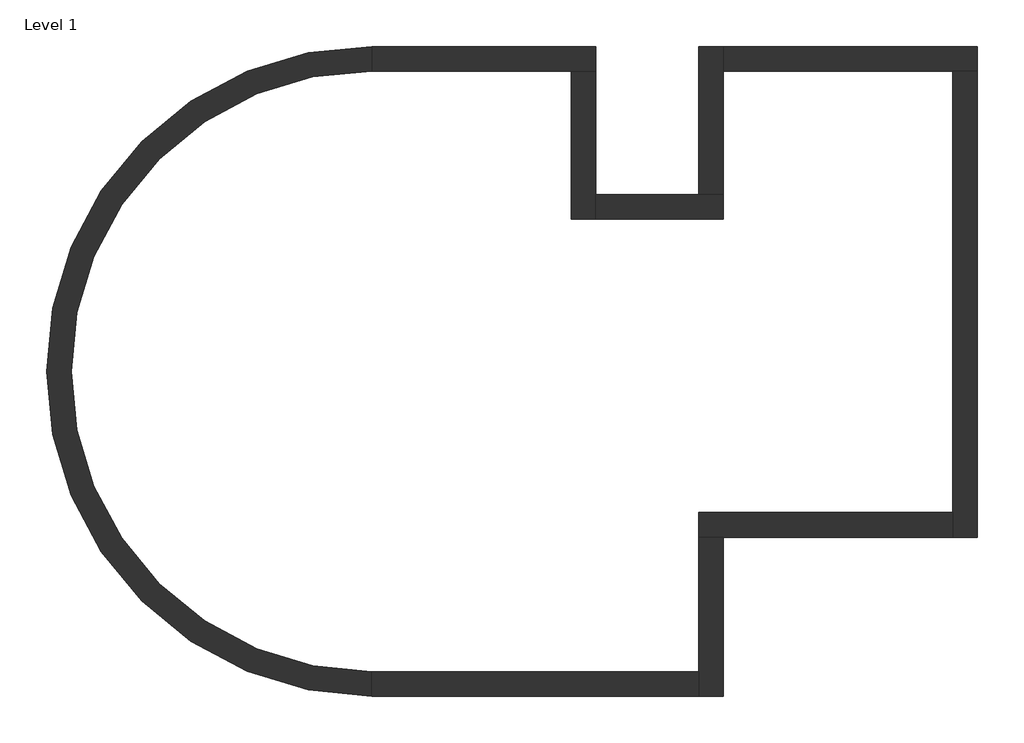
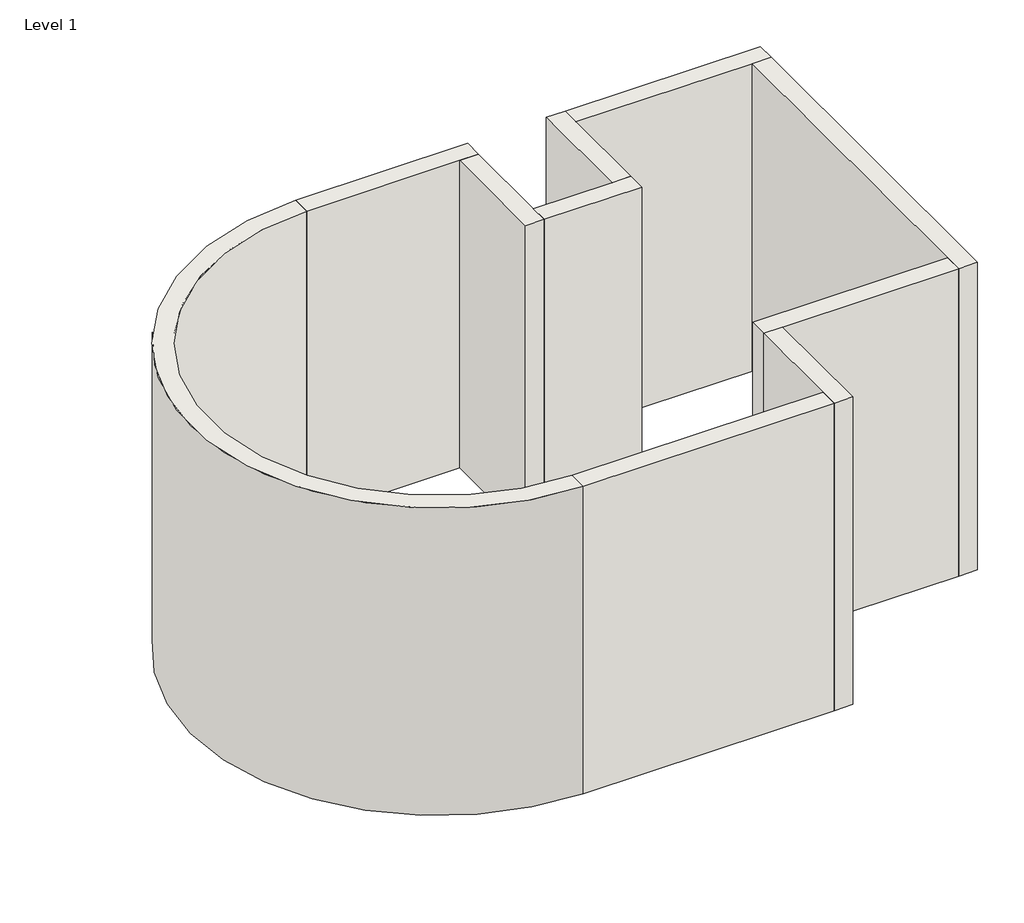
# One storey: 10 walls.
"""IFC4 building model written with IfcOpenShell, lengths in millimetres."""

import ifcopenshell
import ifcopenshell.guid

model = None  # the IFC model being written
_history = None  # IfcOwnerHistory: only IFC2X3 demands one
_inside = {}  # id of a spatial element -> (the spatial element, [elements in it])
_under = {}  # id of a project, library or spatial element -> (it, [spatial elements below it])
_declared = {}  # id of a project -> (the project, [libraries it declares])
_typed = {}  # id of a type object -> (the type object, [elements of that type])
_made_of = {}  # id of a material, layer set ... -> (it, [elements and type objects made of it])


def new_model(schema):
    """Start an empty IFC model of exactly this schema.

    Asked for "IFC4X3", IfcOpenShell would pick the latest addendum, in which some entities
    have other attributes; the version numbers below select the first issue.
    IFC2X3 requires an IfcOwnerHistory on every rooted entity: one is made here for all.
    """
    global model, _history
    if schema == "IFC4X3":
        model = ifcopenshell.file(schema_version=(4, 3, 0, 0))
    else:
        model = ifcopenshell.file(schema=schema)
    _inside.clear()
    _under.clear()
    _declared.clear()
    _typed.clear()
    _made_of.clear()
    _history = None
    if model.schema == "IFC2X3":
        org = make("IfcOrganization", Name="unknown")
        user = make(
            "IfcPersonAndOrganization",
            ThePerson=make("IfcPerson", FamilyName="unknown"),
            TheOrganization=org,
        )
        app = make(
            "IfcApplication",
            ApplicationDeveloper=org,
            Version="unknown",
            ApplicationFullName="unknown",
            ApplicationIdentifier="unknown",
        )
        _history = make(
            "IfcOwnerHistory",
            OwningUser=user,
            OwningApplication=app,
            ChangeAction="ADDED",
            CreationDate=0,
        )
    return model


def make(cls, **values):
    """One entity of the class cls with the attributes given. An attribute that is None is left unset."""
    return model.create_entity(
        cls, **{name: value for name, value in values.items() if value is not None}
    )


def rooted(cls, **values):
    """An entity with a GlobalId (a new one), such as an element, a storey or a relation."""
    return make(cls, GlobalId=ifcopenshell.guid.new(), OwnerHistory=_history, **values)


def si_unit(unit_type, name, prefix=None):
    """IfcSIUnit, for example si_unit("LENGTHUNIT", "METRE", prefix="MILLI")."""
    return make("IfcSIUnit", UnitType=unit_type, Prefix=prefix, Name=name)


def assignment(units):
    """IfcUnitAssignment: the units of a project."""
    return None if units is None else make("IfcUnitAssignment", Units=units)


def point(xyz):
    """IfcCartesianPoint."""
    return None if xyz is None else make("IfcCartesianPoint", Coordinates=xyz)


def direction(xyz):
    """IfcDirection."""
    return None if xyz is None else make("IfcDirection", DirectionRatios=xyz)


def frame(location, z_axis=None, x_axis=None):
    """IfcAxis2Placement3D, a coordinate frame: its origin and axes. An axis left out is left unset."""
    return make(
        "IfcAxis2Placement3D",
        Location=point(location),
        Axis=direction(z_axis),
        RefDirection=direction(x_axis),
    )


def frame_2d(location, x_axis=None):
    """IfcAxis2Placement2D, a coordinate frame in the plane: its origin and x axis."""
    return make(
        "IfcAxis2Placement2D", Location=point(location), RefDirection=direction(x_axis)
    )


def origin():
    """The frame at (0, 0, 0) with its axes left unset."""
    return frame((0.0, 0.0, 0.0))


def origin_with_axes():
    """The frame at (0, 0, 0) with the z axis (0, 0, 1) and the x axis (1, 0, 0) written out."""
    return frame((0.0, 0.0, 0.0), z_axis=(0.0, 0.0, 1.0), x_axis=(1.0, 0.0, 0.0))


def place(relative_to, where):
    """IfcLocalPlacement: puts the frame where relative to a parent placement (None: the world)."""
    return make(
        "IfcLocalPlacement", PlacementRelTo=relative_to, RelativePlacement=where
    )


def context(
    kind, dimensions, precision=None, world=None, true_north=None, identifier=None
):
    """IfcGeometricRepresentationContext, for example the 3D "Model" context."""
    return make(
        "IfcGeometricRepresentationContext",
        ContextIdentifier=identifier,
        ContextType=kind,
        CoordinateSpaceDimension=dimensions,
        Precision=precision,
        WorldCoordinateSystem=world,
        TrueNorth=true_north,
    )


def project(units=None, contexts=None):
    """IfcProject with its units and contexts."""
    return rooted(
        "IfcProject",
        Name="project",
        RepresentationContexts=contexts,
        UnitsInContext=assignment(units),
    )


def spatial(cls, under=None, at=None, **own):
    """A site, building, storey or space (cls), placed at a placement, below another one or the project."""
    s = rooted(cls, ObjectPlacement=at, **own)
    if under is not None:
        _under.setdefault(under.id(), (under, []))[1].append(s)
    return s


def polyline(points):
    """IfcPolyline through the points."""
    return make("IfcPolyline", Points=[point(p) for p in points])


def circle_curve(where, radius):
    """IfcCircle in the frame where."""
    return make("IfcCircle", Position=where, Radius=radius)


def trimmed(basis, trim1, trim2, sense, master):
    """IfcTrimmedCurve: the piece of a basis curve between two trims."""
    return make(
        "IfcTrimmedCurve",
        BasisCurve=basis,
        Trim1=trim1,
        Trim2=trim2,
        SenseAgreement=sense,
        MasterRepresentation=master,
    )


def segment(curve, same_sense, transition):
    """IfcCompositeCurveSegment."""
    return make(
        "IfcCompositeCurveSegment",
        Transition=transition,
        SameSense=same_sense,
        ParentCurve=curve,
    )


def composite_curve(segments, self_intersect=None):
    """IfcCompositeCurve: segments joined end to end."""
    return make("IfcCompositeCurve", Segments=segments, SelfIntersect=self_intersect)


def outline(outer, holes=None, kind="AREA"):
    """IfcArbitraryClosedProfileDef: a profile drawn as a closed curve; with holes, ...WithVoids."""
    if holes is None:
        return make("IfcArbitraryClosedProfileDef", ProfileType=kind, OuterCurve=outer)
    return make(
        "IfcArbitraryProfileDefWithVoids",
        ProfileType=kind,
        OuterCurve=outer,
        InnerCurves=holes,
    )


def extrude(swept, where, along, depth):
    """IfcExtrudedAreaSolid: the profile swept, set in the frame where, extruded along a direction by depth."""
    return make(
        "IfcExtrudedAreaSolid",
        SweptArea=swept,
        Position=where,
        ExtrudedDirection=direction(along),
        Depth=depth,
    )


def faces_of(points, faces, orient=None, outer=None):
    """IfcFace entities. A face is a list of loops; a loop is a list of indices into points, from 0.

    orient and outer hold one flag for each loop. By default every Orientation is true, the
    first loop of a face is its IfcFaceOuterBound and the others are IfcFaceBound.
    """
    made = []
    for i, loops in enumerate(faces):
        bounds = []
        for j, loop in enumerate(loops):
            is_outer = j == 0 if outer is None else outer[i][j]
            bounds.append(
                make(
                    "IfcFaceOuterBound" if is_outer else "IfcFaceBound",
                    Bound=make("IfcPolyLoop", Polygon=[points[k] for k in loop]),
                    Orientation=True if orient is None else orient[i][j],
                )
            )
        made.append(make("IfcFace", Bounds=bounds))
    return made


def faceted_brep(points, faces, orient=None, outer=None, voids=None):
    """IfcFacetedBrep: a solid bounded by flat faces; with voids (closed shells), ...WithVoids."""
    shared = [point(p) for p in points]
    hull = make("IfcClosedShell", CfsFaces=faces_of(shared, faces, orient, outer))
    if voids is None:
        return make("IfcFacetedBrep", Outer=hull)
    return make(
        "IfcFacetedBrepWithVoids",
        Outer=hull,
        Voids=[
            make(cls, CfsFaces=faces_of(shared, fs, o, b)) for cls, fs, o, b in voids
        ],
    )


def shape(context_of_items, identifier, shape_type, items):
    """IfcShapeRepresentation: the items that make up one representation, for example the "Body"."""
    return make(
        "IfcShapeRepresentation",
        ContextOfItems=context_of_items,
        RepresentationIdentifier=identifier,
        RepresentationType=shape_type,
        Items=items,
    )


def made_of(thing, what):
    """Note that an element or type object is made of a material, layer set ...; save() writes the relation."""
    if what is not None:
        _made_of.setdefault(what.id(), (what, []))[1].append(thing)
    return thing


def element(
    cls,
    number,
    at=None,
    inside=None,
    cuts=None,
    type_object=None,
    material=None,
    context=None,
    identifier="Body",
    shape_type=None,
    held_by="IfcProductDefinitionShape",
    body=None,
    shapes=None,
    **own,
):
    """One element of the class cls, such as IfcWall. Its Tag is "e" and its number.

    at: its placement. inside: the storey or other place that contains it. cuts: it is an
    opening in that element (IfcRelVoidsElement). A single representation is given by context,
    identifier, shape_type and body (its items); several are given by shapes. held_by: the class
    of the entity that holds the representations. save() writes the other relations.
    """
    e = rooted(cls, Tag="e%d" % number, ObjectPlacement=at, **own)
    if body is not None:
        shapes = [shape(context, identifier, shape_type, body)]
    if shapes is not None:
        e.Representation = make(held_by, Representations=shapes)
    if inside is not None:
        _inside.setdefault(inside.id(), (inside, []))[1].append(e)
    if cuts is not None:
        rooted(
            "IfcRelVoidsElement", RelatingBuildingElement=cuts, RelatedOpeningElement=e
        )
    if type_object is not None:
        _typed.setdefault(type_object.id(), (type_object, []))[1].append(e)
    return made_of(e, material)


def aggregate(whole, parts):
    """IfcRelAggregates: a whole, such as a stair, and the parts it consists of."""
    return rooted("IfcRelAggregates", RelatingObject=whole, RelatedObjects=parts)


def save(model, path):
    """Write the relations noted so far, then the file.

    IfcRelAggregates (storeys below a building ...), IfcRelContainedInSpatialStructure (elements
    in a storey), IfcRelDefinesByType, IfcRelAssociatesMaterial and IfcRelDeclares: one each for
    every whole, place, type object, material and project.
    """
    for whole, parts in _under.values():
        aggregate(whole, parts)
    for where, things in _inside.values():
        rooted(
            "IfcRelContainedInSpatialStructure",
            RelatedElements=things,
            RelatingStructure=where,
        )
    for kind, things in _typed.values():
        rooted("IfcRelDefinesByType", RelatedObjects=things, RelatingType=kind)
    for what, things in _made_of.values():
        rooted("IfcRelAssociatesMaterial", RelatedObjects=things, RelatingMaterial=what)
    for by, libraries in _declared.values():
        rooted("IfcRelDeclares", RelatingContext=by, RelatedDefinitions=libraries)
    model.write(path)


model = new_model("IFC4")

# Units and contexts
model_context = context("Model", 3, world=origin())
ifc_project = project(units=[si_unit("LENGTHUNIT", "METRE", prefix="MILLI")], contexts=[model_context])

# Site, building, storey
site = spatial("IfcSite", under=ifc_project)
building = spatial("IfcBuilding", under=site)
storey = spatial("IfcBuildingStorey", under=building, Name="Level 1", Elevation=0.0)

# Walls
placement = place(None, origin())
element("IfcWall", 1, ObjectType="Exterior - Brick on Mtl. Stud", at=placement, inside=storey, context=model_context, shape_type="Brep", body=[
    faceted_brep([(-4352.987982, 5164.0459322, 0.0), (-1481.200482, 5164.0459322, 0.0), (-1128.775482, 5164.0459322, 0.0), (-1128.775482, 5164.0459322, 6096.0), (-1481.200482, 5164.0459322, 6096.0), (-4352.987982, 5164.0459322, 6096.0), (-4352.987982, 5516.4709322, 0.0), (-4352.987982, 5516.4709322, 6096.0), (-1128.775482, 5516.4709322, 6096.0), (-1128.775482, 5516.4709322, 0.0)], [[[0, 1, 2, 3, 4, 5]], [[6, 7, 8, 9]], [[2, 1, 0, 6, 9]], [[5, 4, 3, 8, 7]], [[0, 5, 7, 6]], [[3, 2, 9, 8]]]),
])
element("IfcWall", 2, ObjectType="Exterior - Brick on Mtl. Stud", at=placement, inside=storey, context=model_context, shape_type="Brep", body=[
    faceted_brep([(-1481.200482, 5164.0459322, 0.0), (-1481.200482, 3030.4459322, 0.0), (-1481.200482, 3030.4459322, 6096.0), (-1481.200482, 5164.0459322, 6096.0), (-1128.775482, 5164.0459322, 0.0), (-1128.775482, 5164.0459322, 6096.0), (-1128.775482, 3382.8709322, 6096.0), (-1128.775482, 3030.4459322, 6096.0), (-1128.775482, 3030.4459322, 0.0), (-1128.775482, 3382.8709322, 0.0)], [[[0, 1, 2, 3]], [[4, 5, 6, 7, 8, 9]], [[1, 0, 4, 9, 8]], [[3, 2, 7, 6, 5]], [[0, 3, 5, 4]], [[2, 1, 8, 7]]]),
])
element("IfcWall", 3, ObjectType="Exterior - Brick on Mtl. Stud", at=placement, inside=storey, context=model_context, shape_type="Brep", body=[
    faceted_brep([(-1128.775482, 3030.4459322, 0.0), (700.024518, 3030.4459322, 0.0), (700.024518, 3030.4459322, 6096.0), (-1128.775482, 3030.4459322, 6096.0), (-1128.775482, 3382.8709322, 0.0), (-1128.775482, 3382.8709322, 6096.0), (347.599518, 3382.8709322, 6096.0), (700.024518, 3382.8709322, 6096.0), (700.024518, 3382.8709322, 0.0), (347.599518, 3382.8709322, 0.0)], [[[0, 1, 2, 3]], [[4, 5, 6, 7, 8, 9]], [[1, 0, 4, 9, 8]], [[3, 2, 7, 6, 5]], [[0, 3, 5, 4]], [[2, 1, 8, 7]]]),
])
element("IfcWall", 4, ObjectType="Exterior - Brick on Mtl. Stud", at=placement, inside=storey, context=model_context, shape_type="Brep", body=[
    faceted_brep([(700.024518, 3382.8709322, 0.0), (700.024518, 5164.0459322, 0.0), (700.024518, 5516.4709322, 0.0), (700.024518, 5516.4709322, 6096.0), (700.024518, 5164.0459322, 6096.0), (700.024518, 3382.8709322, 6096.0), (347.599518, 3382.8709322, 0.0), (347.599518, 3382.8709322, 6096.0), (347.599518, 5516.4709322, 6096.0), (347.599518, 5516.4709322, 0.0)], [[[0, 1, 2, 3, 4, 5]], [[6, 7, 8, 9]], [[2, 1, 0, 6, 9]], [[5, 4, 3, 8, 7]], [[0, 5, 7, 6]], [[3, 2, 9, 8]]]),
])
element("IfcWall", 5, ObjectType="Exterior - Brick on Mtl. Stud", at=placement, inside=storey, context=model_context, shape_type="Brep", body=[
    faceted_brep([(700.024518, 5164.0459322, 0.0), (4005.199518, 5164.0459322, 0.0), (4357.624518, 5164.0459322, 0.0), (4357.624518, 5164.0459322, 6096.0), (4005.199518, 5164.0459322, 6096.0), (700.024518, 5164.0459322, 6096.0), (700.024518, 5516.4709322, 0.0), (700.024518, 5516.4709322, 6096.0), (4357.624518, 5516.4709322, 6096.0), (4357.624518, 5516.4709322, 0.0)], [[[0, 1, 2, 3, 4, 5]], [[6, 7, 8, 9]], [[2, 1, 0, 6, 9]], [[5, 4, 3, 8, 7]], [[0, 5, 7, 6]], [[3, 2, 9, 8]]]),
])
element("IfcWall", 6, ObjectType="Exterior - Brick on Mtl. Stud", at=placement, inside=storey, context=model_context, shape_type="Brep", body=[
    faceted_brep([(4005.199518, 5164.0459322, 0.0), (4005.199518, -1189.1290678, 0.0), (4005.199518, -1541.5540678, 0.0), (4005.199518, -1541.5540678, 6096.0), (4005.199518, -1189.1290678, 6096.0), (4005.199518, 5164.0459322, 6096.0), (4357.624518, 5164.0459322, 0.0), (4357.624518, 5164.0459322, 6096.0), (4357.624518, -1541.5540678, 6096.0), (4357.624518, -1541.5540678, 0.0)], [[[0, 1, 2, 3, 4, 5]], [[6, 7, 8, 9]], [[2, 1, 0, 6, 9]], [[5, 4, 3, 8, 7]], [[0, 5, 7, 6]], [[3, 2, 9, 8]]]),
])
element("IfcWall", 7, ObjectType="Exterior - Brick on Mtl. Stud", at=placement, inside=storey, context=model_context, shape_type="Brep", body=[
    faceted_brep([(4005.199518, -1189.1290678, 0.0), (347.599518, -1189.1290678, 0.0), (347.599518, -1189.1290678, 6096.0), (4005.199518, -1189.1290678, 6096.0), (4005.199518, -1541.5540678, 0.0), (4005.199518, -1541.5540678, 6096.0), (700.024518, -1541.5540678, 6096.0), (347.599518, -1541.5540678, 6096.0), (347.599518, -1541.5540678, 0.0), (700.024518, -1541.5540678, 0.0)], [[[0, 1, 2, 3]], [[4, 5, 6, 7, 8, 9]], [[1, 0, 4, 9, 8]], [[3, 2, 7, 6, 5]], [[0, 3, 5, 4]], [[2, 1, 8, 7]]]),
])
element("IfcWall", 8, ObjectType="Exterior - Brick on Mtl. Stud", at=placement, inside=storey, context=model_context, shape_type="Brep", body=[
    faceted_brep([(347.599518, -1541.5540678, 0.0), (347.599518, -3475.1290678, 0.0), (347.599518, -3827.5540678, 0.0), (347.599518, -3827.5540678, 6096.0), (347.599518, -3475.1290678, 6096.0), (347.599518, -1541.5540678, 6096.0), (700.024518, -1541.5540678, 0.0), (700.024518, -1541.5540678, 6096.0), (700.024518, -3827.5540678, 6096.0), (700.024518, -3827.5540678, 0.0)], [[[0, 1, 2, 3, 4, 5]], [[6, 7, 8, 9]], [[2, 1, 0, 6, 9]], [[5, 4, 3, 8, 7]], [[0, 5, 7, 6]], [[3, 2, 9, 8]]]),
])
element("IfcWall", 9, ObjectType="Exterior - Brick on Mtl. Stud", at=placement, inside=storey, context=model_context, shape_type="SweptSolid", body=[
    extrude(outline(polyline([(-4352.987982, -3475.1290678), (347.599518, -3475.1290678), (347.599518, -3827.5540678), (-4352.987982, -3827.5540678), (-4352.987982, -3475.1290678)])), origin_with_axes(), (0.0, 0.0, 1.0), 6096.0),
])
element("IfcWall", 10, ObjectType="Exterior - Brick on Mtl. Stud", at=placement, inside=storey, context=model_context, shape_type="SweptSolid", body=[
    extrude(outline(composite_curve([segment(polyline([(-4352.987982, 5516.4709322), (-4352.987982, 5164.0459322)]), True, "CONTINUOUS"), segment(trimmed(circle_curve(frame_2d((-4352.987982, 844.4584322)), 4319.5875), [point((-4352.987982, 5164.0459322))], [point((-4352.987982, -3475.1290678))], True, "CARTESIAN"), True, "CONTINUOUS"), segment(polyline([(-4352.987982, -3475.1290678), (-4352.987982, -3827.5540678)]), True, "CONTINUOUS"), segment(trimmed(circle_curve(frame_2d((-4352.987982, 844.4584322)), 4672.0125), [point((-4352.987982, -3827.5540678))], [point((-4352.987982, 5516.4709322))], False, "CARTESIAN"), True, "CONTINUOUS")], self_intersect=False)), origin_with_axes(), (0.0, 0.0, 1.0), 6096.0),
])

save(model, "model.ifc")
